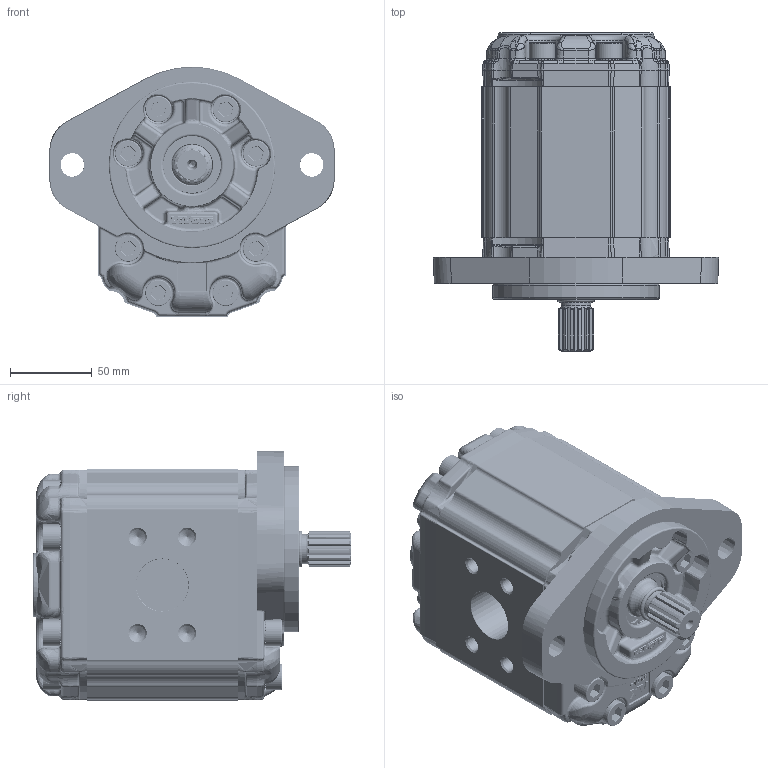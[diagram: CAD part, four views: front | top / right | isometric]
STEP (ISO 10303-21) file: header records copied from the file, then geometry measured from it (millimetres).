
FILE_DESCRIPTION(/* description */ ('Unknown'),/* implementation_level */ '2;1');
FILE_NAME(/* name */ 'X3U8031IOOA',/* time_stamp */ '2026-06-04T19:11:34+02:00',/* author */ ('Unknown'),/* organization */ ('Unknown'),/* preprocessor_version */ 'ST-DEVELOPER v16.7',/* originating_system */ 'Solid Edge',/* authorisation */ 'Unknown');
FILE_SCHEMA (('AUTOMOTIVE_DESIGN {1 0 10303 214 3 1 1}'));
Products named in the file (5): X3U8031IOOA; X3U31; 3I; X3OOH92; XU331-A
Assembly tree (4 placements, depth 2):
  X3U8031IOOA
    X3U31
    3I
    X3OOH92
    XU331-A
Bounding box: 174 x 194.2 x 153 mm (x, y, z)
Volume: 2170992.9 mm3; surface area: 230182.6 mm2
Topology: 4 solids, 5 shells, 4743 faces, 14417 edges, 8995 vertices
Faces by surface type: cylinder 1854, plane 1272, bspline 1254, torus 177, cone 160, sphere 26
Full cylindrical faces by diameter (mm): 2 x2, 9.149 x8, 10 x16, 10.35 x30, 10.5 x1, 14.314 x1, 14.315 x1, 15.8 x16, 16 x16, 18 x2, 24.98 x1, 25.5 x1, 26.8 x1, 29.425 x1, 30.687 x1, 31 x1, 32 x2, 33.304 x1, 34.7 x1, 35 x2, 35.2 x1, 37 x1, 101.6 x1
Entity records: 349023 total; most frequent: CARTESIAN_POINT 199936, ORIENTED_EDGE 27820, DIRECTION 19899, EDGE_CURVE 13910, VERTEX_POINT 8838, AXIS2_PLACEMENT_3D 7540, FACE_BOUND 5218, EDGE_LOOP 5209
